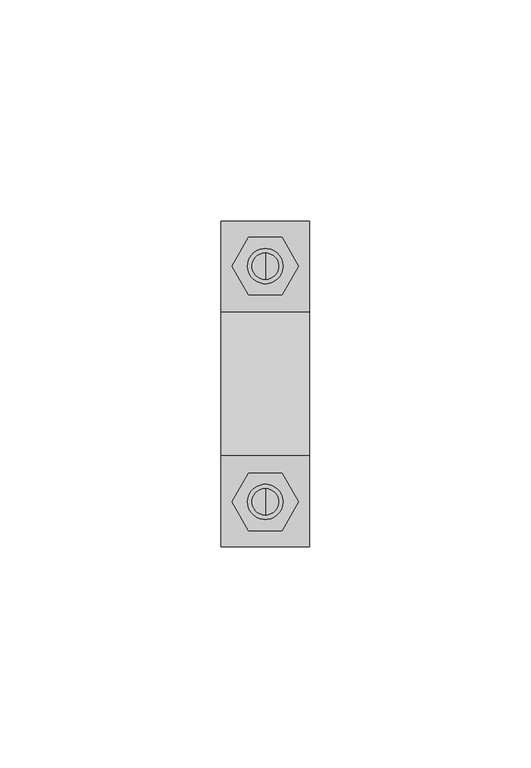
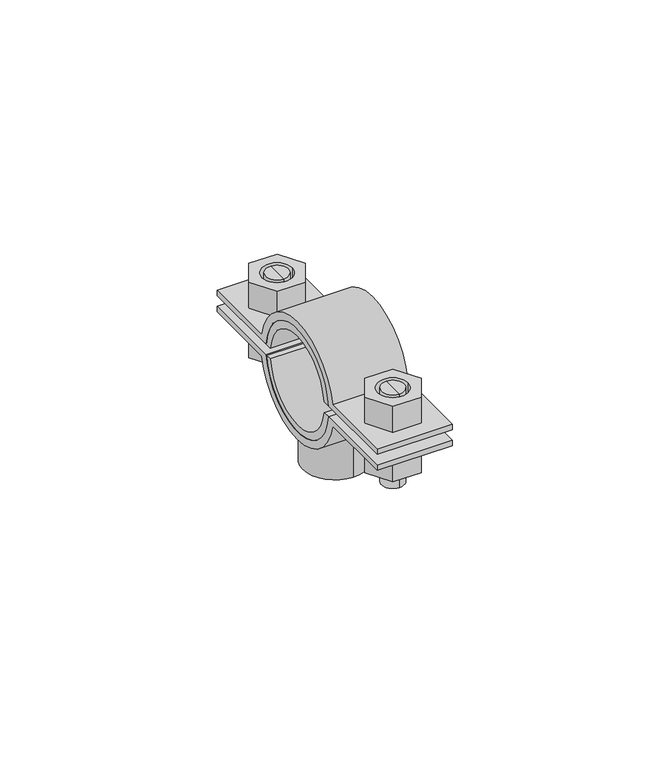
"""IFC4 building model written with IfcOpenShell, lengths in millimetres: valve geometry, Superfix DG2 Clamp Extra + : Superfix DG2 Clamp Extra +."""

from ifc_helpers import new_model, si_unit, point, frame, frame_2d, origin, origin_2d, place, context, project, spatial, polyline, circle_curve, trimmed, segment, composite_curve, outline, extrude, source, transform, mapped, element, save
from ifc_brep_helpers import plane_surface, cylinder_surface, advanced_brep


def valve_c1f0a65c(model_context):
    return source(origin(), model_context, "Body", "SolidModel", [
        advanced_brep(
        [(0.0, 29.625, 334.4), (0.0, 23.625, 334.4), (0.0, 23.625, 348.5), (0.0, 29.625, 348.5), (0.0, 26.625, 334.4)],
        [
            (0, 1, circle_curve(frame((0.0, 26.625, 334.4), z_axis=(0.0, 0.0, 1.0), x_axis=(0.0, 1.0, 0.0)), 3.0)),
            (1, 2),
            (2, 3, circle_curve(frame((0.0, 26.625, 348.5), z_axis=(0.0, 0.0, -1.0), x_axis=(0.0, 1.0, 0.0)), 3.0)),
            (3, 0),
            (1, 0, circle_curve(frame((0.0, 26.625, 334.4), z_axis=(0.0, 0.0, 1.0), x_axis=(0.0, 1.0, 0.0)), 3.0)),
            (3, 2, circle_curve(frame((0.0, 26.625, 348.5), z_axis=(0.0, 0.0, -1.0), x_axis=(0.0, 1.0, 0.0)), 3.0)),
            (0, 4),
            (4, 1),
        ],
        [
            cylinder_surface(frame((0.0, 26.625, 348.2806094), z_axis=(0.0, 0.0, 1.0), x_axis=(0.0, 1.0, 0.0)), 3.0),
            plane_surface(frame((0.0, 26.625, 334.4), z_axis=(0.0, 0.0, -1.0), x_axis=(0.0, 1.0, 0.0))),
            plane_surface(frame((13.75, -36.75, 348.5), z_axis=(0.0, 0.0, 1.0), x_axis=(-1.0, 0.0, 0.0))),
        ],
        [
            (0, [[1, 2, 3, 4]]),
            (0, [[5, -4, 6, -2]]),
            (1, [[-1, 7, 8]]),
            (1, [[-5, -8, -7]]),
            (2, [[-3, -6]]),
        ],
    ),
        advanced_brep(
        [(0.0, 23.625, 360.6), (0.0, 29.625, 360.6), (0.0, 29.625, 351.5), (0.0, 23.625, 351.5), (0.0, 26.625, 360.6)],
        [
            (0, 1, circle_curve(frame((0.0, 26.625, 360.6), z_axis=(0.0, 0.0, -1.0), x_axis=(0.0, 1.0, 0.0)), 3.0)),
            (1, 2),
            (2, 3, circle_curve(frame((0.0, 26.625, 351.5), z_axis=(0.0, 0.0, 1.0), x_axis=(0.0, 1.0, 0.0)), 3.0)),
            (3, 0),
            (1, 0, circle_curve(frame((0.0, 26.625, 360.6), z_axis=(0.0, 0.0, -1.0), x_axis=(0.0, 1.0, 0.0)), 3.0)),
            (3, 2, circle_curve(frame((0.0, 26.625, 351.5), z_axis=(0.0, 0.0, 1.0), x_axis=(0.0, 1.0, 0.0)), 3.0)),
            (0, 4),
            (4, 1),
        ],
        [
            cylinder_surface(frame((0.0, 26.625, 348.2806094), z_axis=(0.0, 0.0, 1.0), x_axis=(0.0, 1.0, 0.0)), 3.0),
            plane_surface(frame((0.0, 26.625, 360.6), z_axis=(0.0, 0.0, 1.0), x_axis=(0.0, 1.0, 0.0))),
            plane_surface(frame((13.75, 36.75, 351.5), z_axis=(0.0, 0.0, -1.0), x_axis=(-1.0, 0.0, 0.0))),
        ],
        [
            (0, [[1, 2, 3, 4]]),
            (0, [[5, -4, 6, -2]]),
            (1, [[-1, 7, 8]]),
            (1, [[-5, -8, -7]]),
            (2, [[-3, -6]]),
        ],
    ),
        advanced_brep(
        [(0.0, -29.625, 360.6), (0.0, -23.625, 360.6), (0.0, -23.625, 351.5), (0.0, -29.625, 351.5), (0.0, -26.625, 360.6)],
        [
            (0, 1, circle_curve(frame((0.0, -26.625, 360.6), z_axis=(0.0, 0.0, -1.0), x_axis=(0.0, -1.0, 0.0)), 3.0)),
            (1, 2),
            (2, 3, circle_curve(frame((0.0, -26.625, 351.5), z_axis=(0.0, 0.0, 1.0), x_axis=(0.0, -1.0, 0.0)), 3.0)),
            (3, 0),
            (1, 0, circle_curve(frame((0.0, -26.625, 360.6), z_axis=(0.0, 0.0, -1.0), x_axis=(0.0, -1.0, 0.0)), 3.0)),
            (3, 2, circle_curve(frame((0.0, -26.625, 351.5), z_axis=(0.0, 0.0, 1.0), x_axis=(0.0, -1.0, 0.0)), 3.0)),
            (0, 4),
            (4, 1),
        ],
        [
            cylinder_surface(frame((0.0, -26.625, 348.2806094), z_axis=(0.0, 0.0, -1.0), x_axis=(0.0, -1.0, 0.0)), 3.0),
            plane_surface(frame((0.0, -26.625, 360.6), z_axis=(0.0, 0.0, 1.0), x_axis=(0.0, -1.0, 0.0))),
            plane_surface(frame((13.75, 36.75, 351.5), z_axis=(0.0, 0.0, -1.0), x_axis=(-1.0, 0.0, 0.0))),
        ],
        [
            (0, [[1, 2, 3, 4]]),
            (0, [[5, -4, 6, -2]]),
            (1, [[-1, 7, 8]]),
            (1, [[-5, -8, -7]]),
            (2, [[-3, -6]]),
        ],
    ),
        advanced_brep(
        [(0.0, -23.625, 334.4), (0.0, -29.625, 334.4), (0.0, -29.625, 348.5), (0.0, -23.625, 348.5), (0.0, -26.625, 334.4)],
        [
            (0, 1, circle_curve(frame((0.0, -26.625, 334.4), z_axis=(0.0, 0.0, 1.0), x_axis=(0.0, -1.0, 0.0)), 3.0)),
            (1, 2),
            (2, 3, circle_curve(frame((0.0, -26.625, 348.5), z_axis=(0.0, 0.0, -1.0), x_axis=(0.0, -1.0, 0.0)), 3.0)),
            (3, 0),
            (1, 0, circle_curve(frame((0.0, -26.625, 334.4), z_axis=(0.0, 0.0, 1.0), x_axis=(0.0, -1.0, 0.0)), 3.0)),
            (3, 2, circle_curve(frame((0.0, -26.625, 348.5), z_axis=(0.0, 0.0, -1.0), x_axis=(0.0, -1.0, 0.0)), 3.0)),
            (0, 4),
            (4, 1),
        ],
        [
            cylinder_surface(frame((0.0, -26.625, 348.2806094), z_axis=(0.0, 0.0, -1.0), x_axis=(0.0, -1.0, 0.0)), 3.0),
            plane_surface(frame((0.0, -26.625, 334.4), z_axis=(0.0, 0.0, -1.0), x_axis=(0.0, -1.0, 0.0))),
            plane_surface(frame((13.75, -36.75, 348.5), z_axis=(0.0, 0.0, 1.0), x_axis=(-1.0, 0.0, 0.0))),
        ],
        [
            (0, [[1, 2, 3, 4]]),
            (0, [[5, -4, 6, -2]]),
            (1, [[-1, 7, 8]]),
            (1, [[-5, -8, -7]]),
            (2, [[-3, -6]]),
        ],
    ),
        extrude(outline(composite_curve([segment(trimmed(circle_curve(frame_2d((0.0, 350.0)), 14.5), [point((-14.4222051, 348.5))], [point((14.4222051, 348.5))], True, "CARTESIAN"), True, "CONTINUOUS"), segment(polyline([(14.4222051, 348.5), (36.75, 348.5), (36.75, 347.0), (16.2249807, 347.0)]), True, "CONTINUOUS"), segment(trimmed(circle_curve(frame_2d((0.0, 350.0)), 16.5), [point((16.2249807, 347.0))], [point((-16.2249807, 347.0))], False, "CARTESIAN"), True, "CONTINUOUS"), segment(polyline([(-16.2249807, 347.0), (-36.75, 347.0), (-36.75, 348.5), (-14.4222051, 348.5)]), True, "CONTINUOUS")], self_intersect=False)), frame((-10.0, 0.0, 0.0), z_axis=(1.0, 0.0, 0.0), x_axis=(0.0, 1.0, 0.0)), (0.0, 0.0, 1.0), 20.0),
        extrude(outline(composite_curve([segment(trimmed(circle_curve(frame_2d((0.0, 350.0)), 14.5), [point((14.4222051, 351.5))], [point((-14.4222051, 351.5))], True, "CARTESIAN"), True, "CONTINUOUS"), segment(polyline([(-14.4222051, 351.5), (-36.75, 351.5), (-36.75, 353.0), (-16.2249807, 353.0)]), True, "CONTINUOUS"), segment(trimmed(circle_curve(frame_2d((0.0, 350.0)), 16.5), [point((-16.2249807, 353.0))], [point((16.2249807, 353.0))], False, "CARTESIAN"), True, "CONTINUOUS"), segment(polyline([(16.2249807, 353.0), (36.75, 353.0), (36.75, 351.5), (14.4222051, 351.5)]), True, "CONTINUOUS")], self_intersect=False)), frame((-10.0, 0.0, 0.0), z_axis=(1.0, 0.0, 0.0), x_axis=(0.0, 1.0, 0.0)), (0.0, 0.0, 1.0), 20.0),
        extrude(outline(polyline([(7.5055535, -26.625), (3.7527767, -33.125), (-3.7527767, -33.125), (-7.5055535, -26.625), (-3.7527767, -20.125), (3.7527767, -20.125), (7.5055535, -26.625)]), holes=[composite_curve([segment(trimmed(circle_curve(frame_2d((0.0, -26.625)), 4.0), [point((4.0, -26.625))], [point((-4.0, -26.625))], True, "CARTESIAN"), True, "CONTINUOUS"), segment(trimmed(circle_curve(frame_2d((0.0, -26.625)), 4.0), [point((-4.0, -26.625))], [point((4.0, -26.625))], True, "CARTESIAN"), True, "CONTINUOUS")], self_intersect=False)]), frame((0.0, 0.0, 353.0), z_axis=(0.0, 0.0, 1.0), x_axis=(1.0, 0.0, 0.0)), (0.0, 0.0, 1.0), 7.6),
        extrude(outline(polyline([(7.5055535, 26.625), (3.7527767, 20.125), (-3.7527767, 20.125), (-7.5055535, 26.625), (-3.7527767, 33.125), (3.7527767, 33.125), (7.5055535, 26.625)]), holes=[composite_curve([segment(trimmed(circle_curve(frame_2d((0.0, 26.625)), 4.0), [point((4.0, 26.625))], [point((-4.0, 26.625))], True, "CARTESIAN"), True, "CONTINUOUS"), segment(trimmed(circle_curve(frame_2d((0.0, 26.625)), 4.0), [point((-4.0, 26.625))], [point((4.0, 26.625))], True, "CARTESIAN"), True, "CONTINUOUS")], self_intersect=False)]), frame((0.0, 0.0, 353.0), z_axis=(0.0, 0.0, 1.0), x_axis=(1.0, 0.0, 0.0)), (0.0, 0.0, 1.0), 7.6),
        extrude(outline(polyline([(7.5055535, -26.625), (3.7527767, -33.125), (-3.7527767, -33.125), (-7.5055535, -26.625), (-3.7527767, -20.125), (3.7527767, -20.125), (7.5055535, -26.625)]), holes=[composite_curve([segment(trimmed(circle_curve(frame_2d((0.0, -26.625)), 4.0), [point((4.0, -26.625))], [point((-4.0, -26.625))], True, "CARTESIAN"), True, "CONTINUOUS"), segment(trimmed(circle_curve(frame_2d((0.0, -26.625)), 4.0), [point((-4.0, -26.625))], [point((4.0, -26.625))], True, "CARTESIAN"), True, "CONTINUOUS")], self_intersect=False)]), frame((0.0, 0.0, 339.4), z_axis=(0.0, 0.0, 1.0), x_axis=(1.0, 0.0, 0.0)), (0.0, 0.0, 1.0), 7.6),
        extrude(outline(polyline([(7.5055535, 26.625), (3.7527767, 20.125), (-3.7527767, 20.125), (-7.5055535, 26.625), (-3.7527767, 33.125), (3.7527767, 33.125), (7.5055535, 26.625)]), holes=[composite_curve([segment(trimmed(circle_curve(frame_2d((0.0, 26.625)), 4.0), [point((4.0, 26.625))], [point((-4.0, 26.625))], True, "CARTESIAN"), True, "CONTINUOUS"), segment(trimmed(circle_curve(frame_2d((0.0, 26.625)), 4.0), [point((-4.0, 26.625))], [point((4.0, 26.625))], True, "CARTESIAN"), True, "CONTINUOUS")], self_intersect=False)]), frame((0.0, 0.0, 339.4), z_axis=(0.0, 0.0, 1.0), x_axis=(1.0, 0.0, 0.0)), (0.0, 0.0, 1.0), 7.6),
        extrude(outline(composite_curve([segment(trimmed(circle_curve(origin_2d(), 8.5), [point((0.0, 8.5))], [point((0.0, -8.5))], False, "CARTESIAN"), True, "CONTINUOUS"), segment(trimmed(circle_curve(origin_2d(), 8.5), [point((0.0, -8.5))], [point((0.0, 8.5))], False, "CARTESIAN"), True, "CONTINUOUS")], self_intersect=False), holes=[composite_curve([segment(trimmed(circle_curve(origin_2d(), 5.0), [point((0.0, 5.0))], [point((0.0, -5.0))], True, "CARTESIAN"), True, "CONTINUOUS"), segment(trimmed(circle_curve(origin_2d(), 5.0), [point((0.0, -5.0))], [point((0.0, 5.0))], True, "CARTESIAN"), True, "CONTINUOUS")], self_intersect=False)]), frame((0.0, 0.0, 324.5), z_axis=(0.0, 0.0, 1.0), x_axis=(1.0, 0.0, 0.0)), (0.0, 0.0, 1.0), 11.5),
        extrude(outline(composite_curve([segment(trimmed(circle_curve(frame_2d((0.0, 350.0)), 12.5), [point((12.4096736, 351.5))], [point((-12.4096736, 351.5))], True, "CARTESIAN"), True, "CONTINUOUS"), segment(polyline([(-12.4096736, 351.5), (-14.4222051, 351.5)]), True, "CONTINUOUS"), segment(trimmed(circle_curve(frame_2d((0.0, 350.0)), 14.5), [point((-14.4222051, 351.5))], [point((14.4222051, 351.5))], False, "CARTESIAN"), True, "CONTINUOUS"), segment(polyline([(14.4222051, 351.5), (12.4096736, 351.5)]), True, "CONTINUOUS")], self_intersect=False)), frame((-10.0, 0.0, 0.0), z_axis=(1.0, 0.0, 0.0), x_axis=(0.0, 1.0, 0.0)), (0.0, 0.0, 1.0), 20.0),
        extrude(outline(composite_curve([segment(polyline([(12.4096736, 348.5), (14.4222051, 348.5)]), True, "CONTINUOUS"), segment(trimmed(circle_curve(frame_2d((0.0, 350.0)), 14.5), [point((14.4222051, 348.5))], [point((-14.4222051, 348.5))], False, "CARTESIAN"), True, "CONTINUOUS"), segment(polyline([(-14.4222051, 348.5), (-12.4096736, 348.5)]), True, "CONTINUOUS"), segment(trimmed(circle_curve(frame_2d((0.0, 350.0)), 12.5), [point((-12.4096736, 348.5))], [point((12.4096736, 348.5))], True, "CARTESIAN"), True, "CONTINUOUS")], self_intersect=False)), frame((-10.0, 0.0, 0.0), z_axis=(1.0, 0.0, 0.0), x_axis=(0.0, 1.0, 0.0)), (0.0, 0.0, 1.0), 20.0),
    ])


if __name__ == "__main__":
    model = new_model("IFC4")
    model_context = context("Model", 3, world=origin())
    ifc_project = project(units=[si_unit("LENGTHUNIT", "METRE", prefix="MILLI")], contexts=[model_context])
    site = spatial("IfcSite", under=ifc_project)
    building = spatial("IfcBuilding", under=site)
    placement = place(None, origin())
    valve_shape = valve_c1f0a65c(model_context)
    element("IfcValve", 1, ObjectType="Superfix DG2 Clamp Extra + : Superfix DG2 Clamp Extra +", at=placement, inside=building, context=model_context, shape_type="MappedRepresentation", body=[
        mapped(valve_shape, transform((0.0, 0.0, 0.0), x_axis=(1.0, 0.0, 0.0), y_axis=(0.0, 1.0, 0.0), z_axis=(0.0, 0.0, 1.0))),
    ])
    save(model, "model.ifc")
